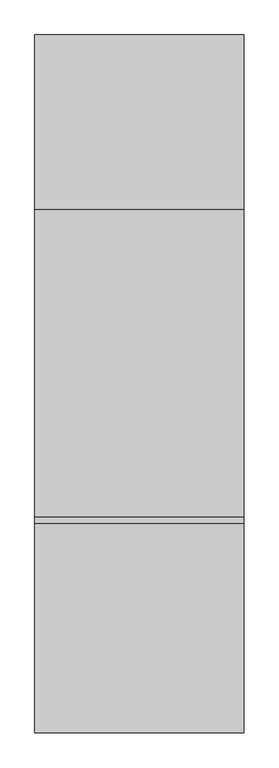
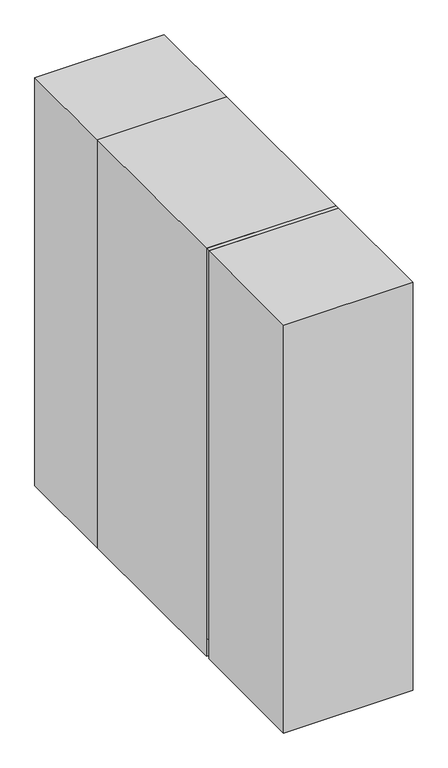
"""IFC4 building model written with IfcOpenShell, lengths in millimetres: proxy geometry, Трехфазный ИБП_ПАТРИОТ_СайберЭлектро : ПАТРИОТ-200Ш."""

from ifc_helpers import new_model, si_unit, frame, origin, origin_with_axes, place, context, project, spatial, polyline, outline, extrude, faceted_brep, source, transform, mapped, element, save


def electrical_equipment_cef4c6c6(model_context):
    return source(origin(), model_context, "Body", "SolidModel", [
        extrude(outline(polyline([(-300.0, 0.0), (-300.0, 500.0), (300.0, 500.0), (300.0, 0.0), (-300.0, 0.0)])), origin_with_axes(), (0.0, 0.0, 1.0), 2000.0),
        extrude(outline(polyline([(-300.0, -900.0), (300.0, -900.0), (300.0, -1500.0), (-300.0, -1500.0), (-300.0, -900.0)])), origin_with_axes(), (0.0, 0.0, 1.0), 2000.0),
        faceted_brep([(300.0, 0.0, 2000.0), (-300.0, 0.0, 2000.0), (-300.0, -880.0, 2000.0), (300.0, -880.0, 2000.0), (300.0, 0.0, 0.0), (300.0, -880.0, 0.0), (-300.0, -880.0, 0.0), (-300.0, 0.0, 0.0), (-295.0, 0.0, 142.0), (295.0, 0.0, 142.0), (295.0, 0.0, 1482.0), (-295.0, 0.0, 1482.0), (-295.0, -50.0, 142.0), (-295.0, -50.0, 1482.0), (295.0, -50.0, 1482.0), (295.0, -50.0, 142.0)], [[[0, 1, 2, 3]], [[4, 5, 6, 7]], [[1, 0, 4, 7], [8, 9, 10, 11]], [[2, 1, 7, 6]], [[3, 2, 6, 5]], [[0, 3, 5, 4]], [[12, 13, 14, 15]], [[12, 15, 9, 8]], [[15, 14, 10, 9]], [[14, 13, 11, 10]], [[13, 12, 8, 11]]]),
        extrude(outline(polyline([(300.0, -880.0), (300.0, -900.0), (-300.0, -900.0), (-300.0, -880.0), (300.0, -880.0)])), frame((0.0, 0.0, 92.0), z_axis=(0.0, 0.0, 1.0), x_axis=(1.0, 0.0, 0.0)), (0.0, 0.0, 1.0), 1908.0),
    ])


if __name__ == "__main__":
    model = new_model("IFC4")
    model_context = context("Model", 3, world=origin())
    ifc_project = project(units=[si_unit("LENGTHUNIT", "METRE", prefix="MILLI")], contexts=[model_context])
    site = spatial("IfcSite", under=ifc_project)
    building = spatial("IfcBuilding", under=site)
    placement = place(None, origin())
    electrical_equipment_shape = electrical_equipment_cef4c6c6(model_context)
    element("IfcBuildingElementProxy", 1, Name="Трехфазный ИБП_ПАТРИОТ_СайберЭлектро : ПАТРИОТ-200Ш", ObjectType="Трехфазный ИБП_ПАТРИОТ_СайберЭлектро : ПАТРИОТ-200Ш", at=placement, inside=building, context=model_context, shape_type="MappedRepresentation", body=[
        mapped(electrical_equipment_shape, transform((0.0, 0.0, 0.0), x_axis=(1.0, 0.0, 0.0), y_axis=(0.0, 1.0, 0.0), z_axis=(0.0, 0.0, 1.0))),
    ])
    save(model, "model.ifc")
